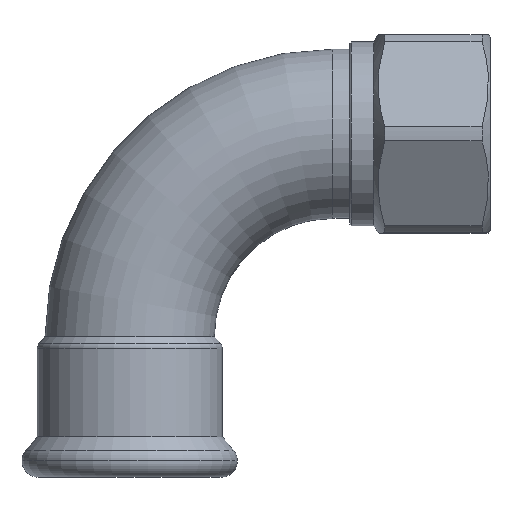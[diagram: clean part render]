
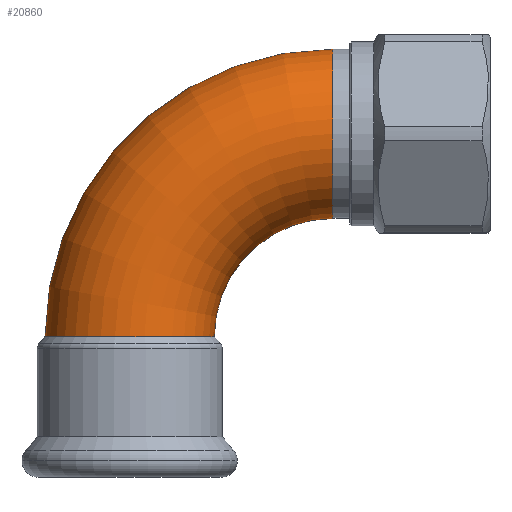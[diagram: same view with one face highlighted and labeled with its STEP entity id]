
A CAD part, top view. The second image highlights one B-rep face of the part: STEP entity #20860.
In plain terms, the highlighted toroidal (fillet/blend) face has major radius 42 mm and minor radius 17.5 mm.
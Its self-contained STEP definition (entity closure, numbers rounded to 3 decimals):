
#9670=CARTESIAN_POINT('',(-137.071,-473.955,
0.));
#9680=DIRECTION('',(0.,-1.,0.));
#9690=DIRECTION('',(1.,0.,0.));
#9700=AXIS2_PLACEMENT_3D('',#9670,#9680,#9690);
#9710=CIRCLE('',#9700,17.5);
#9720=CARTESIAN_POINT('',(-119.571,-473.955,
0.));
#9730=VERTEX_POINT('',#9720);
#9740=CARTESIAN_POINT('',(-154.571,-473.955,
0.));
#9750=VERTEX_POINT('',#9740);
#9760=EDGE_CURVE('',#9730,#9750,#9710,.T.);
#13770=CARTESIAN_POINT('',(-95.071,-473.955,
0.));
#13780=DIRECTION('',(0.,0.,1.));
#13790=DIRECTION('',(0.,1.,0.));
#13800=AXIS2_PLACEMENT_3D('',#13770,#13780,#13790);
#13810=TOROIDAL_SURFACE('',#13800,42.,17.5);
#13820=CARTESIAN_POINT('',(-95.071,-473.955,
0.));
#13830=DIRECTION('',(0.,0.,1.));
#13840=DIRECTION('',(0.,1.,0.));
#13850=AXIS2_PLACEMENT_3D('',#13820,#13830,#13840);
#13860=CIRCLE('',#13850,24.5);
#13870=CARTESIAN_POINT('',(-95.071,-449.455,
0.));
#13880=VERTEX_POINT('',#13870);
#13890=EDGE_CURVE('',#13880,#9730,#13860,.T.);
#13960=CARTESIAN_POINT('',(-95.071,-414.455,
0.));
#13970=VERTEX_POINT('',#13960);
#14000=CARTESIAN_POINT('',(-95.071,-473.955,
0.));
#14010=DIRECTION('',(0.,0.,1.));
#14020=DIRECTION('',(0.,1.,0.));
#14030=AXIS2_PLACEMENT_3D('',#14000,#14010,#14020);
#14040=CIRCLE('',#14030,59.5);
#14050=EDGE_CURVE('',#13970,#9750,#14040,.T.);
#20740=ORIENTED_EDGE('',*,*,#9760,.F.);
#20750=ORIENTED_EDGE('',*,*,#14050,.T.);
#20760=CARTESIAN_POINT('',(-95.071,-431.955,
0.));
#20770=DIRECTION('',(-1.,0.,0.));
#20780=DIRECTION('',(0.,-1.,0.));
#20790=AXIS2_PLACEMENT_3D('',#20760,#20770,#20780);
#20800=CIRCLE('',#20790,17.5);
#20810=EDGE_CURVE('',#13880,#13970,#20800,.T.);
#20820=ORIENTED_EDGE('',*,*,#20810,.T.);
#20830=ORIENTED_EDGE('',*,*,#13890,.F.);
#20840=EDGE_LOOP('',(#20830,#20820,#20750,#20740));
#20850=FACE_OUTER_BOUND('',#20840,.T.);
#20860=ADVANCED_FACE('',(#20850),#13810,.T.);
